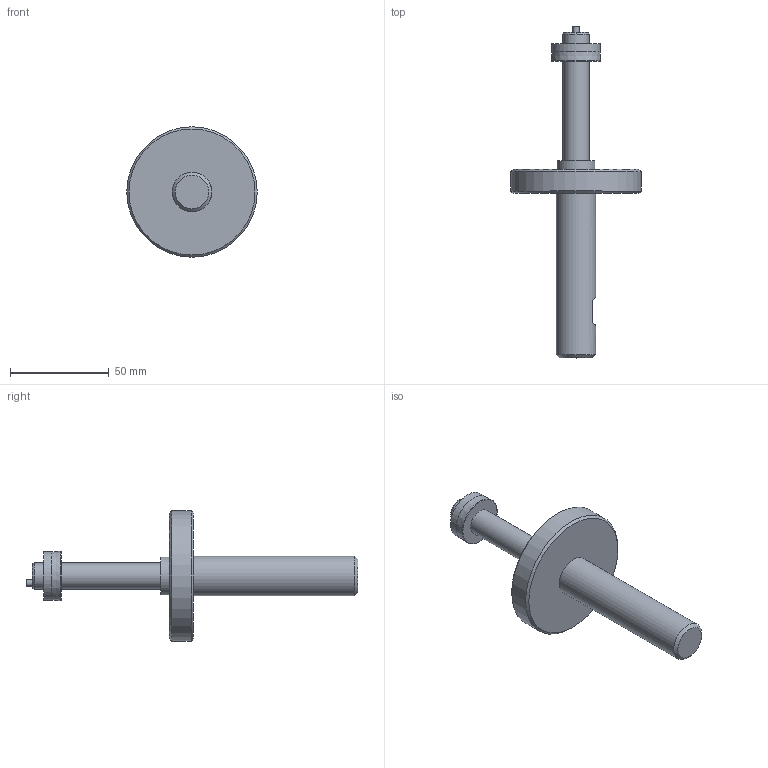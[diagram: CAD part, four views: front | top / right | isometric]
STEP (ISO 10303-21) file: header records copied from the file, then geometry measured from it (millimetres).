
FILE_DESCRIPTION (( 'STEP AP203' ), '1' );
FILE_NAME ('AF53-SIMPLE - AF53-13.50M-25.00M.step', '2025-01-21T20:29:23', ( '' ), ( '' ), 'SwSTEP 2.0', 'SolidWorks 2024', '' );
FILE_SCHEMA (( 'CONFIG_CONTROL_DESIGN' ));
Length unit declared in the file: inch
Products named in the file (1): AF53-SIMPLE - AF53-13.50M-25.00M
Bounding box: 66.04 x 168.02 x 66.04 mm (x, y, z)
Volume: 80779.2 mm3; surface area: 18267 mm2
Topology: 1 solids, 1 shells, 24 faces, 40 edges, 25 vertices
Faces by surface type: plane 11, cylinder 7, cone 5, torus 1
Full cylindrical faces by diameter (mm): 3.175 x1, 13.36 x2, 19.05 x1, 20 x1, 24.494 x1, 66.04 x1
Entity records: 569 total; most frequent: DIRECTION 94, CARTESIAN_POINT 81, ORIENTED_EDGE 52, AXIS2_PLACEMENT_3D 45, EDGE_LOOP 44, FACE_OUTER_BOUND 32, EDGE_CURVE 26, VERTEX_POINT 24
